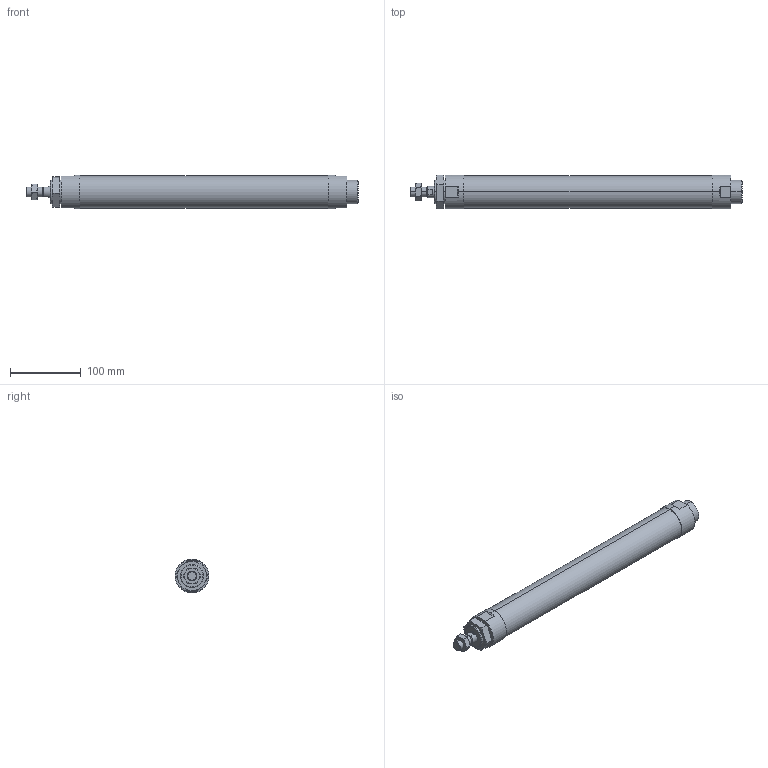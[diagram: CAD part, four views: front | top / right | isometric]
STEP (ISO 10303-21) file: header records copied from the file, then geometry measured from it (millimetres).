
FILE_DESCRIPTION (( 'STEP AP203' ), '1' );
FILE_NAME ('J#2-40-300-N.STEP', '2016-03-08T08:10:21', ( '' ), ( '' ), 'SwSTEP 2.0', 'SolidWorks 2014', '' );
FILE_SCHEMA (( 'CONFIG_CONTROL_DESIGN' ));
Length unit declared in the file: millimetre
Products named in the file (4): J#2-40-300-N; J#2-40-300
Assembly tree (3 placements, depth 2):
  J#2-40-300-N
    J#2-40-300
    (unnamed)
    (unnamed)
Bounding box: 469 x 48 x 48 mm (x, y, z)
Volume: 716389.9 mm3; surface area: 73790.2 mm2
Topology: 3 solids, 3 shells, 94 faces, 210 edges, 125 vertices
Faces by surface type: plane 33, torus 24, cylinder 22, cone 15
Entity records: 3435 total; most frequent: CARTESIAN_POINT 1022, DIRECTION 421, ORIENTED_EDGE 412, EDGE_CURVE 206, AXIS2_PLACEMENT_3D 178, VERTEX_POINT 125, EDGE_LOOP 105, ADVANCED_FACE 94
